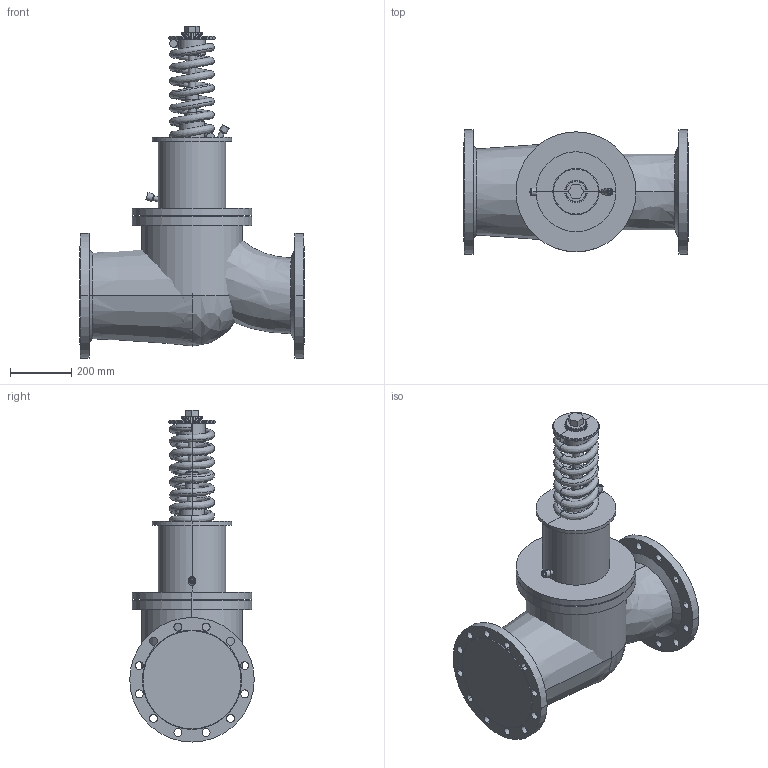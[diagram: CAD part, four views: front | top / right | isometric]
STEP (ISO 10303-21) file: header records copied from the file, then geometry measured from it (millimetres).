
FILE_DESCRIPTION(/* description */ (''),/* implementation_level */ '2;1');
FILE_NAME(/* name */ 'ETM_Регулятор давления_УРРД_НЗ_РД_DN250 0.3—1.2 МПа',/* time_stamp */ '2026-04-24T19:00:56+03:00',/* author */ (''),/* organization */ (''),/* preprocessor_version */ 'ST-DEVELOPER v20',/* originating_system */ '',/* authorisation */ '');
FILE_SCHEMA (('AP242_MANAGED_MODEL_BASED_3D_ENGINEERING_MIM_LF { 1 0 10303 442 1 1 4 }'));
Length unit declared in the file: millimetre
Products named in the file (13): TopLevelAssembly; Выдавливание; Переход; Выдавливание_
1; Переход_1; Переход_2; Переход_3; Объемная геометрия 
присоединена; Выдавливание_
2; Выдавливание_
3; Объемная геометрия 
присоединена_1; Выдавливание_
4; Красная
Assembly tree (12 placements, depth 2):
  TopLevelAssembly
    Выдавливание
    Переход
    Выдавливание_
1
    Переход_1
    Переход_2
    Переход_3
    Объемная геометрия 
присоединена
    Выдавливание_
2
    Выдавливание_
3
    Объемная геометрия 
присоединена_1
    Выдавливание_
4
    Красная
Bounding box: 730 x 405 x 1079.95 mm (x, y, z)
Volume: 97928675 mm3; surface area: 3730075.2 mm2
Topology: 19 solids, 19 shells, 306 faces, 638 edges, 360 vertices
Faces by surface type: cylinder 126, plane 89, bspline 81, cone 10
Entity records: 9911 total; most frequent: CARTESIAN_POINT 2783, DIRECTION 1524, ORIENTED_EDGE 1272, AXIS2_PLACEMENT_3D 646, EDGE_CURVE 636, CIRCLE 391, VERTEX_POINT 360, EDGE_LOOP 356
